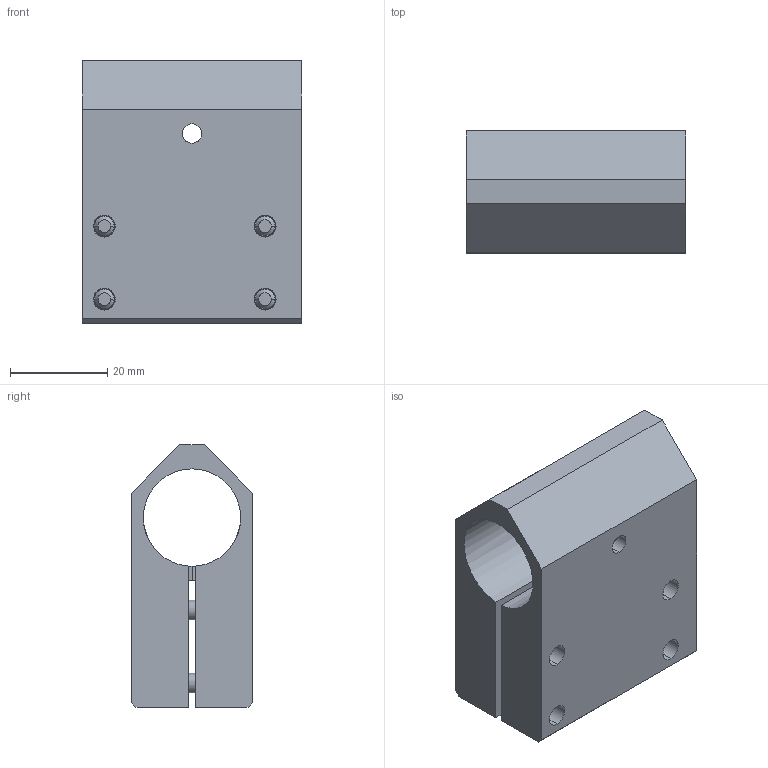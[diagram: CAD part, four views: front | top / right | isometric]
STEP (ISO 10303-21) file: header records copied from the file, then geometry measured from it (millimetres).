
FILE_DESCRIPTION (( 'STEP AP214' ), '1' );
FILE_NAME ('SMBF1-2012.STEP', '2019-11-06T06:28:44', ( '微软用户' ), ( '微软中国' ), 'SwSTEP 2.0', 'SolidWorks 2016', '' );
FILE_SCHEMA (( 'AUTOMOTIVE_DESIGN' ));
Length unit declared in the file: millimetre
Products named in the file (1): SMBF1-2012
Bounding box: 45 x 25 x 54 mm (x, y, z)
Volume: 36572.3 mm3; surface area: 16715.5 mm2
Topology: 9 solids, 9 shells, 912 faces, 2635 edges, 1740 vertices
Faces by surface type: plane 828, cylinder 68, cone 8, bspline 8
Entity records: 40848 total; most frequent: CARTESIAN_POINT 5901, DIRECTION 5300, ORIENTED_EDGE 5266, EDGE_CURVE 2633, AXIS2_PLACEMENT_3D 1786, VERTEX_POINT 1739, LINE 1728, VECTOR 1728
